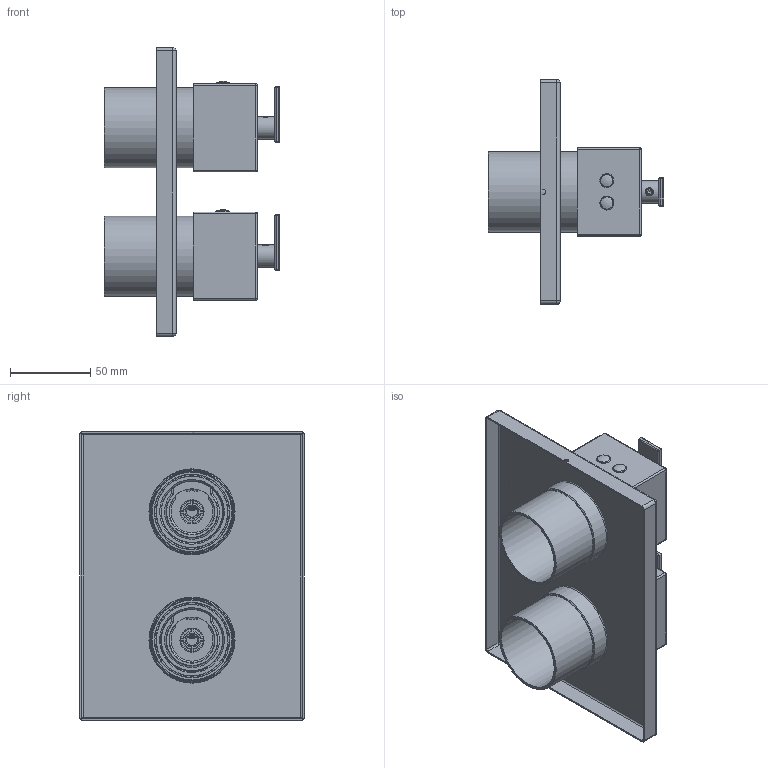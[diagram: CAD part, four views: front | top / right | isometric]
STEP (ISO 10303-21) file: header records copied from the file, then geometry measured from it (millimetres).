
FILE_DESCRIPTION(/* description */ (''),/* implementation_level */ '2;1');
FILE_NAME(/* name */ 'X:\Collections\Moderne\Mizo\MZ88\TMZ88 3D.stp',/* time_stamp */ '2017-05-04T07:15:55-04:00',/* author */ ('simono'),/* organization */ (''),/* preprocessor_version */ 'ST-DEVELOPER v15.6',/* originating_system */ 'Autodesk Inventor 2015',/* authorisation */ '');
FILE_SCHEMA (('AUTOMOTIVE_DESIGN { 1 0 10303 214 3 1 1 }'));
Length unit declared in the file: millimetre
Products named in the file (11): 050-488; 002-407; 152-060; 1962; 003-421; 002-993; 1901; 1698; 052-071; 053-004; TMZ88
Assembly tree (16 placements, depth 4):
  TMZ88
    050-488
    1698  x2
      1962
        002-407
        152-060
      1901
        003-421  x2
        002-993
        152-060  x2
    052-071  x2
    053-004  x2
Bounding box: 109.55 x 140 x 180 mm (x, y, z)
Volume: 136521.2 mm3; surface area: 173685.4 mm2
Topology: 19 solids, 19 shells, 1090 faces, 2618 edges, 1600 vertices
Faces by surface type: plane 491, cylinder 223, bspline 210, torus 80, sphere 44, cone 42
Full cylindrical faces by diameter (mm): 2.5 x6, 3 x2, 4.134 x4, 5 x2, 6.7 x6, 11 x2, 14 x2, 14.5 x2, 43.2 x2, 45 x2, 46.6 x2, 49.5 x2, 50 x2, 50.5 x2, 52.5 x2
Entity records: 19084 total; most frequent: CARTESIAN_POINT 8222, ORIENTED_EDGE 2230, DIRECTION 1987, EDGE_CURVE 1115, VERTEX_POINT 723, AXIS2_PLACEMENT_3D 690, EDGE_LOOP 608, LINE 607
